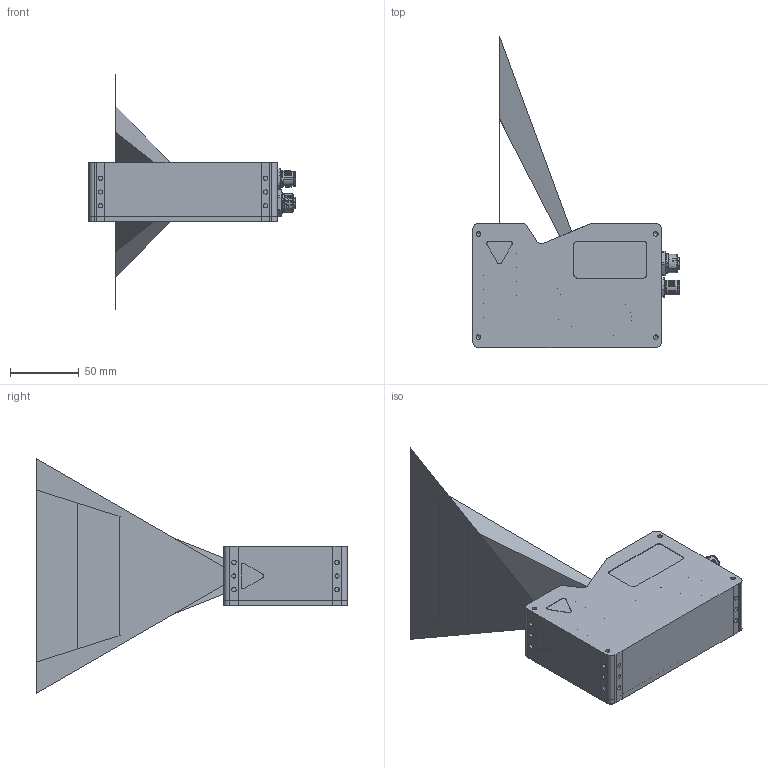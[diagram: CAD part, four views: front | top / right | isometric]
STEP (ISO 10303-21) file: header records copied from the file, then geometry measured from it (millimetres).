
FILE_DESCRIPTION(/* description */ (''),/* implementation_level */ '2;1');
FILE_NAME(/* name */ 'C6-S7-2040-CS-23-100-106-SX-1G-XXX-XX_Public.iam.stp',/* time_stamp */ '2025-06-17T14:40:50+02:00',/* author */ ('AT'),/* organization */ ('Automation Technology GmbH'),/* preprocessor_version */ 'ST-DEVELOPER v20',/* originating_system */ 'Autodesk Inventor 2024',/* authorisation */ '');
FILE_SCHEMA (('AUTOMOTIVE_DESIGN { 1 0 10303 214 3 1 1 }'));
Products named in the file (20): C6-S7-2040-CS-23-100-106-SX-1G-XXX-XX_Public; Glasscheibe33x1; EO: 48-924; 1292.6001; SACC-DSI-MS-17CON-M12 SCO SH_1437119-01; SACC-DSI-MS-17CON-M12 SCO SH_1437119_Stecker; SACC-DSI-MS-17CON-M12 SCO SH_1437119_Mutter; SACC-DSI-MS-17CON-M12 SCO SH_1437119_Pins; SACC-DSI-MS-17CON-M12 SCO SH_1437119_Kunststoffeinsatz; SACC-DSI-FS-8CON-L180_SCO SH_1553860-01; SACC-DSI-FS-8CON-L180_SCO SH_1553860_Stecker; SACC-DSI-FS-8CON-L180_SCO SH_1553860_Mutter; SACC-DSI-FS-8CON-L180_SCO SH_1553860_Kunststoffeinsatz; Screw GB/T 2672 M2,5 x 4; Screw GB/T 2672 M2,5 x 6; 202202010-028; 202202010-002; 202202010-009; 202202010-010; C6-S7-2040-CS-23-100-106-SX-1G-XXX-XX_Strahlengang
Assembly tree (36 placements, depth 3):
  C6-S7-2040-CS-23-100-106-SX-1G-XXX-XX_Public
    1292.6001  x5
    Glasscheibe33x1
    EO: 48-924
    SACC-DSI-MS-17CON-M12 SCO SH_1437119-01
      SACC-DSI-MS-17CON-M12 SCO SH_1437119_Stecker
      SACC-DSI-MS-17CON-M12 SCO SH_1437119_Mutter
      SACC-DSI-MS-17CON-M12 SCO SH_1437119_Pins
      SACC-DSI-MS-17CON-M12 SCO SH_1437119_Kunststoffeinsatz
    SACC-DSI-FS-8CON-L180_SCO SH_1553860-01
      SACC-DSI-FS-8CON-L180_SCO SH_1553860_Stecker
      SACC-DSI-FS-8CON-L180_SCO SH_1553860_Mutter
      SACC-DSI-FS-8CON-L180_SCO SH_1553860_Kunststoffeinsatz
    Screw GB/T 2672 M2,5 x 4  x8
    Screw GB/T 2672 M2,5 x 6  x7
    202202010-028
    202202010-002
    202202010-009
    202202010-010
    C6-S7-2040-CS-23-100-106-SX-1G-XXX-XX_Strahlengang
Bounding box: 150.15 x 226.1 x 170.5 mm (x, y, z)
Volume: 287728.4 mm3; surface area: 146235.9 mm2
Topology: 51 solids, 52 shells, 2268 faces, 5438 edges, 3385 vertices
Faces by surface type: cylinder 950, plane 880, bspline 181, cone 123, torus 85, sphere 49
Full cylindrical faces by diameter (mm): 0.217 x1, 0.6 x25, 0.63 x34, 0.9 x8, 1 x10, 1.1 x17, 1.2 x17, 1.5 x5, 1.567 x7, 1.6 x5, 2 x15, 2.013 x36, 2.208 x15, 2.4 x15, 2.5 x15, 2.6 x12, 2.8 x8, 3 x4, 3.242 x12, 5 x15, 5.5 x15, 7.7 x1, 8.25 x2, 8.3 x1, 8.7 x1, 10.5 x1, 10.7 x3, 10.917 x2, 12 x1, 12.2 x1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
Entity records: 86605 total; most frequent: CARTESIAN_POINT 45537, ORIENTED_EDGE 8184, DIRECTION 8085, EDGE_CURVE 4094, AXIS2_PLACEMENT_3D 2963, VERTEX_POINT 2702, LINE 2159, VECTOR 2159
